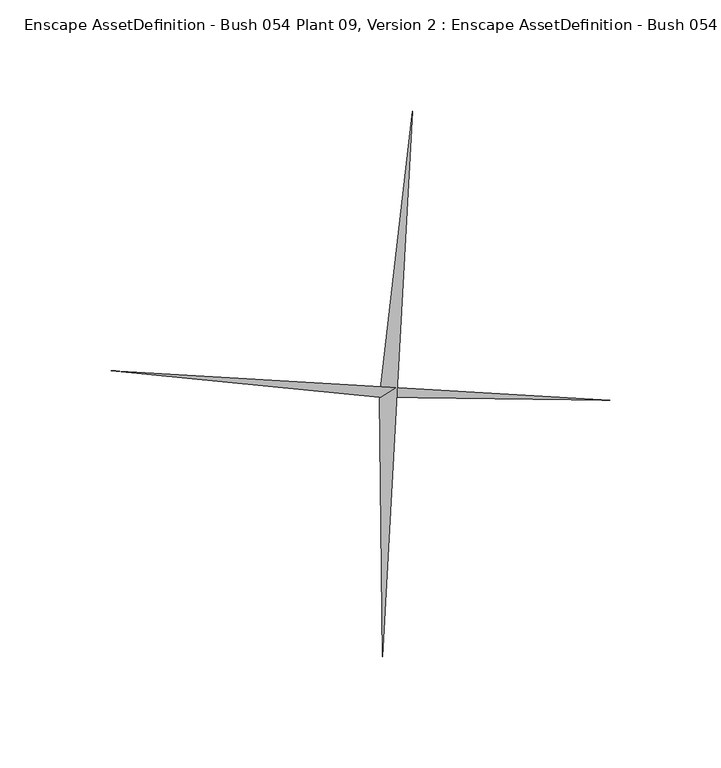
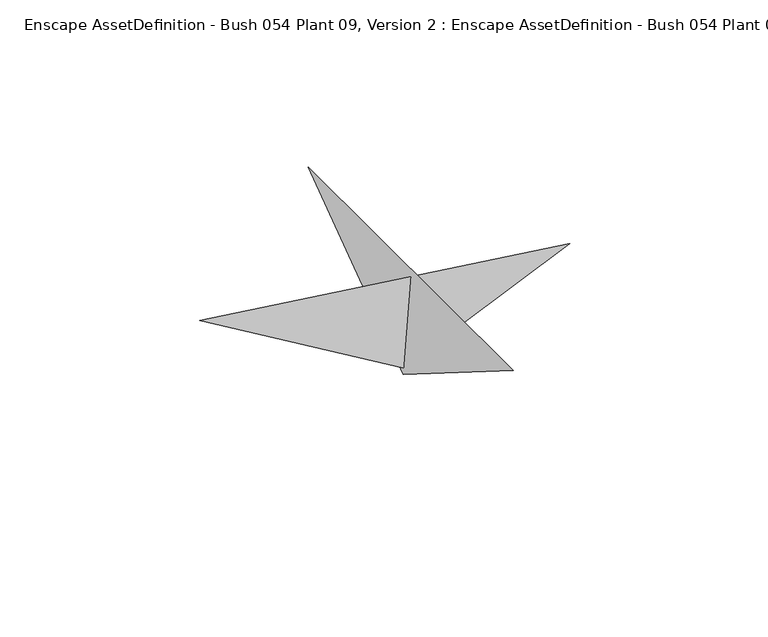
"""IFC4 building model written with IfcOpenShell, lengths in millimetres: geographic element geometry, Enscape AssetDefinition - Bush 054 Plant 09, Version 2 : Enscape AssetDefinition - Bush 054 Plant 09, Version 2."""

from ifc_helpers import new_model, si_unit, origin, place, context, project, spatial, triangles, source, transform, mapped, element, save


def enscape_assetdefinition_bush_054_plant_09_version_2_enscape_7b546a12(model_context):
    return source(origin(), model_context, "Body", "Tessellation", [
        triangles([(-1.1371405, -0.2741148, -4.5844001), (0.2838008, -117.1806745, 68.6565469), (13.6214705, 128.6208464, 49.7571555), (-1.1371405, -0.2741148, -0.1801602), (-122.1515465, 11.6784512, 66.4771923), (102.6196537, -1.6592177, 46.8939672)], [[3, 2, 1], [6, 5, 4]], closed=False),
    ])


if __name__ == "__main__":
    model = new_model("IFC4")
    model_context = context("Model", 3, world=origin())
    ifc_project = project(units=[si_unit("LENGTHUNIT", "METRE", prefix="MILLI")], contexts=[model_context])
    site = spatial("IfcSite", under=ifc_project)
    building = spatial("IfcBuilding", under=site)
    placement = place(None, origin())
    enscape_assetdefinition_bush_054_plant_09_version_2_enscape_shape = enscape_assetdefinition_bush_054_plant_09_version_2_enscape_7b546a12(model_context)
    element("IfcGeographicElement", 1, ObjectType="Enscape AssetDefinition - Bush 054 Plant 09, Version 2 : Enscape AssetDefinition - Bush 054 Plant 09, Version 2", at=placement, inside=building, context=model_context, shape_type="MappedRepresentation", body=[
        mapped(enscape_assetdefinition_bush_054_plant_09_version_2_enscape_shape, transform((0.0, 0.0, 0.0), x_axis=(1.0, 0.0, 0.0), y_axis=(0.0, 1.0, 0.0), z_axis=(0.0, 0.0, 1.0))),
    ])
    save(model, "model.ifc")
